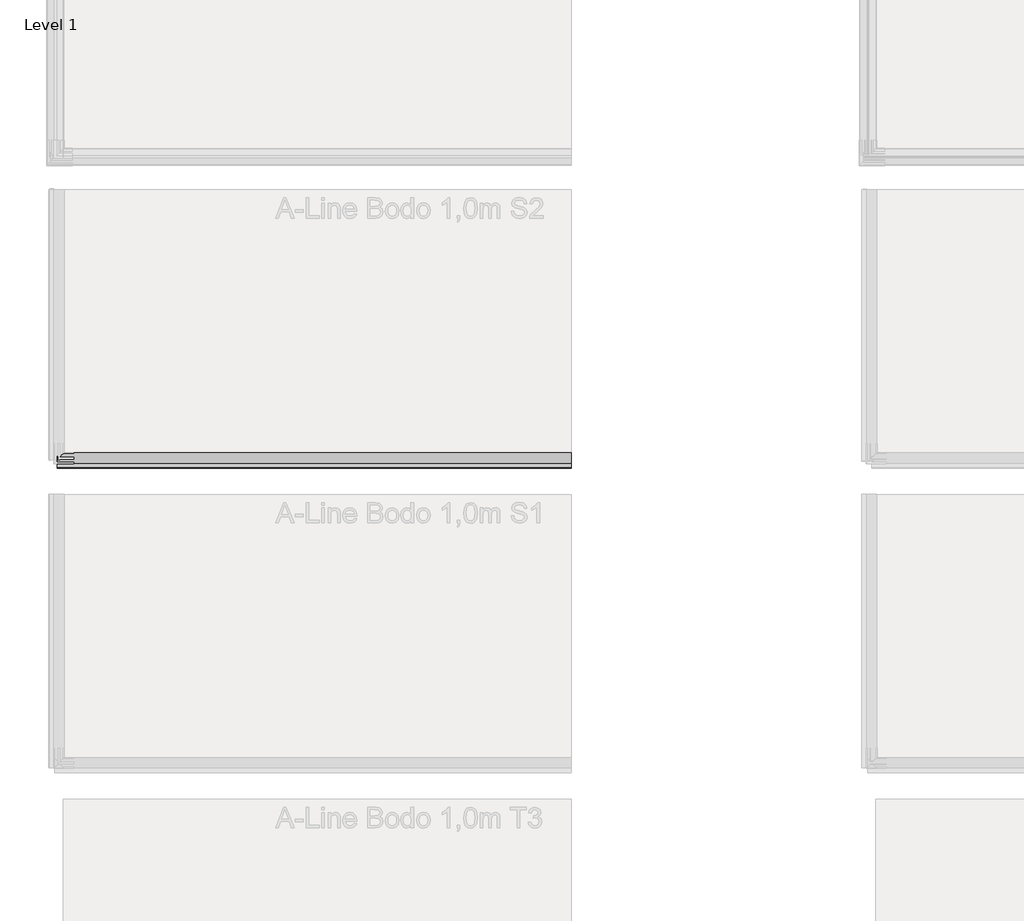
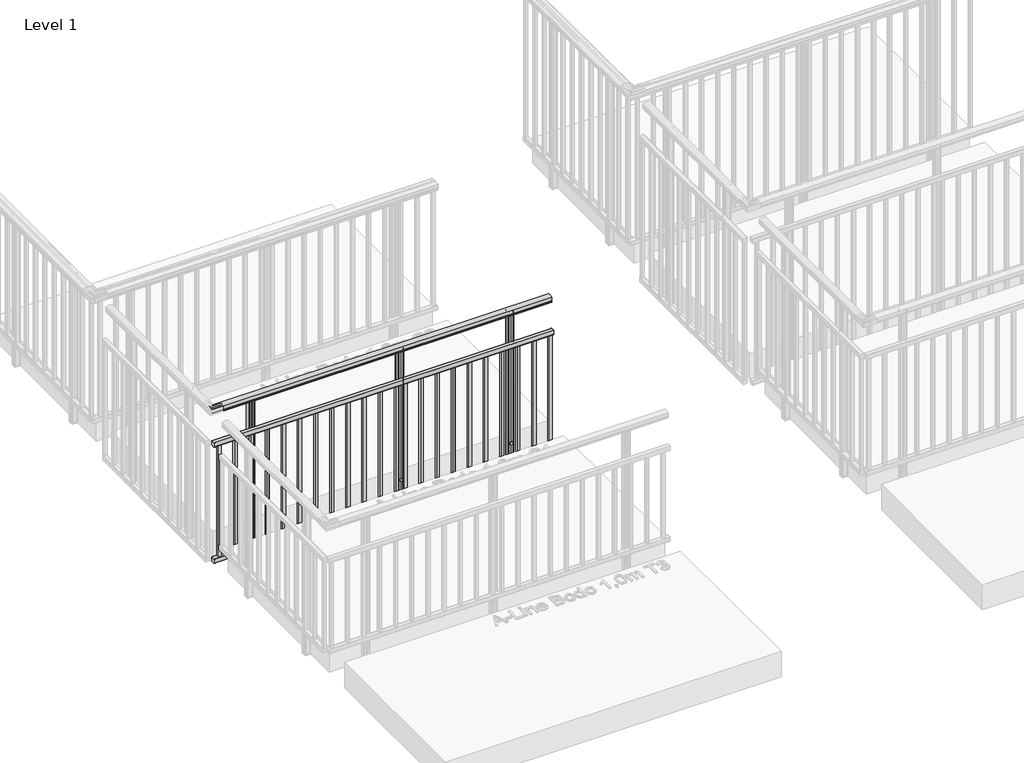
# One storey, part 4 of 66: 1 railing.
"""IFC4 building model written with IfcOpenShell, lengths in millimetres."""

from ifc_helpers import new_model, si_unit, point, frame, frame_2d, origin, place, context, project, spatial, polyline, circle_curve, trimmed, segment, composite_curve, outline, extrude, element, save

model = new_model("IFC4")

# Units and contexts
model_context = context("Model", 3, world=origin())
ifc_project = project(units=[si_unit("LENGTHUNIT", "METRE", prefix="MILLI")], contexts=[model_context])

# Site, building, storey
site = spatial("IfcSite", under=ifc_project)
building = spatial("IfcBuilding", under=site)
storey = spatial("IfcBuildingStorey", under=building, Name="Level 1", Elevation=0.0)

# Railing
placement = place(None, origin())
element("IfcRailing", 1, ObjectType="A-Line Bodo 1,0m S2", at=placement, inside=storey, context=model_context, shape_type="SweptSolid", body=[
    extrude(outline(composite_curve([segment(polyline([(-16065.1717719, 994.1390059), (-16065.1717719, 967.1990555), (-16065.7865549, 966.5842725), (-16065.1717719, 965.9694895), (-16065.1717719, 957.2498847), (-16066.9315805, 957.2498847), (-16066.9315805, 980.4998829), (-16113.9266266, 980.4998829), (-16113.9266266, 957.2498847), (-16115.7315795, 957.2498847), (-16115.7315795, 965.8194895), (-16115.1094985, 966.4415706), (-16115.6914302, 967.0235023), (-16115.6914302, 994.1342258)]), True, "CONTINUOUS"), segment(trimmed(circle_curve(frame_2d((-16090.4267322, 942.6785502)), 57.3235687), [point((-16115.6914302, 994.1342258))], [point((-16065.1717719, 994.1390059))], False, "CARTESIAN"), True, "CONTINUOUS")], self_intersect=False)), frame((4474.0547322, 0.0, 0.0), z_axis=(1.0, 0.0, 0.0), x_axis=(0.0, 1.0, 0.0)), (0.0, 0.0, 1.0), 2530.0),
    extrude(outline(composite_curve([segment(trimmed(circle_curve(frame_2d((-16138.2613559, 749.0)), 1.0), [point((-16139.2613559, 749.0))], [point((-16138.2613559, 750.0))], False, "CARTESIAN"), True, "CONTINUOUS"), segment(polyline([(-16138.2613559, 750.0), (-16111.1613559, 750.0)]), True, "CONTINUOUS"), segment(trimmed(circle_curve(frame_2d((-16111.1613559, 749.0)), 1.0), [point((-16111.1613559, 750.0))], [point((-16110.1613559, 749.0))], False, "CARTESIAN"), True, "CONTINUOUS"), segment(polyline([(-16110.1613559, 749.0), (-16110.1613559, 716.8)]), True, "CONTINUOUS"), segment(trimmed(circle_curve(frame_2d((-16111.1613559, 716.8)), 1.0), [point((-16110.1613559, 716.8))], [point((-16111.1613559, 715.8))], False, "CARTESIAN"), True, "CONTINUOUS"), segment(polyline([(-16111.1613559, 715.8), (-16138.2613559, 715.8)]), True, "CONTINUOUS"), segment(trimmed(circle_curve(frame_2d((-16138.2613559, 716.8)), 1.0), [point((-16138.2613559, 715.8))], [point((-16139.2613559, 716.8))], False, "CARTESIAN"), True, "CONTINUOUS"), segment(polyline([(-16139.2613559, 716.8), (-16139.2613559, 749.0)]), True, "CONTINUOUS")], self_intersect=False)), frame((4474.0547322, 0.0, 0.0), z_axis=(1.0, 0.0, 0.0), x_axis=(0.0, 1.0, 0.0)), (0.0, 0.0, 1.0), 2530.0),
    extrude(outline(composite_curve([segment(polyline([(-16138.2613559, -165.8), (-16111.1613559, -165.8)]), True, "CONTINUOUS"), segment(trimmed(circle_curve(frame_2d((-16111.1613559, -166.8)), 1.0), [point((-16111.1613559, -165.8))], [point((-16110.1613559, -166.8))], False, "CARTESIAN"), True, "CONTINUOUS"), segment(polyline([(-16110.1613559, -166.8), (-16110.1613559, -199.0)]), True, "CONTINUOUS"), segment(trimmed(circle_curve(frame_2d((-16111.1613559, -199.0)), 1.0), [point((-16110.1613559, -199.0))], [point((-16111.1613559, -200.0))], False, "CARTESIAN"), True, "CONTINUOUS"), segment(polyline([(-16111.1613559, -200.0), (-16138.2613559, -200.0)]), True, "CONTINUOUS"), segment(trimmed(circle_curve(frame_2d((-16138.2613559, -199.0)), 1.0), [point((-16138.2613559, -200.0))], [point((-16139.2613559, -199.0))], False, "CARTESIAN"), True, "CONTINUOUS"), segment(polyline([(-16139.2613559, -199.0), (-16139.2613559, -166.8)]), True, "CONTINUOUS"), segment(trimmed(circle_curve(frame_2d((-16138.2613559, -166.8)), 1.0), [point((-16139.2613559, -166.8))], [point((-16138.2613559, -165.8))], False, "CARTESIAN"), True, "CONTINUOUS")], self_intersect=False)), frame((4474.0547322, 0.0, 0.0), z_axis=(1.0, 0.0, 0.0), x_axis=(0.0, 1.0, 0.0)), (0.0, 0.0, 1.0), 2530.0),
    extrude(outline(polyline([(6974.0547322, -16134.7113559), (6974.0547322, -16114.7113559), (6994.0547322, -16114.7113559), (6994.0547322, -16134.7113559), (6974.0547322, -16134.7113559)]), holes=[polyline([(6976.0547322, -16132.7113559), (6992.0547322, -16132.7113559), (6992.0547322, -16116.7113559), (6976.0547322, -16116.7113559), (6976.0547322, -16132.7113559)])]), frame((0.0, 0.0, -166.0), z_axis=(0.0, 0.0, 1.0), x_axis=(1.0, 0.0, 0.0)), (0.0, 0.0, 1.0), 882.0),
    extrude(outline(polyline([(6854.0547322, -16134.7113559), (6854.0547322, -16114.7113559), (6874.0547322, -16114.7113559), (6874.0547322, -16134.7113559), (6854.0547322, -16134.7113559)]), holes=[polyline([(6856.0547322, -16132.7113559), (6872.0547322, -16132.7113559), (6872.0547322, -16116.7113559), (6856.0547322, -16116.7113559), (6856.0547322, -16132.7113559)])]), frame((0.0, 0.0, -166.0), z_axis=(0.0, 0.0, 1.0), x_axis=(1.0, 0.0, 0.0)), (0.0, 0.0, 1.0), 882.0),
    extrude(outline(polyline([(6734.0547322, -16134.7113559), (6734.0547322, -16114.7113559), (6754.0547322, -16114.7113559), (6754.0547322, -16134.7113559), (6734.0547322, -16134.7113559)]), holes=[polyline([(6736.0547322, -16132.7113559), (6752.0547322, -16132.7113559), (6752.0547322, -16116.7113559), (6736.0547322, -16116.7113559), (6736.0547322, -16132.7113559)])]), frame((0.0, 0.0, -166.0), z_axis=(0.0, 0.0, 1.0), x_axis=(1.0, 0.0, 0.0)), (0.0, 0.0, 1.0), 882.0),
    extrude(outline(polyline([(6614.0547322, -16134.7113559), (6614.0547322, -16114.7113559), (6634.0547322, -16114.7113559), (6634.0547322, -16134.7113559), (6614.0547322, -16134.7113559)]), holes=[polyline([(6616.0547322, -16132.7113559), (6632.0547322, -16132.7113559), (6632.0547322, -16116.7113559), (6616.0547322, -16116.7113559), (6616.0547322, -16132.7113559)])]), frame((0.0, 0.0, -166.0), z_axis=(0.0, 0.0, 1.0), x_axis=(1.0, 0.0, 0.0)), (0.0, 0.0, 1.0), 882.0),
    extrude(outline(polyline([(6494.0547322, -16134.7113559), (6494.0547322, -16114.7113559), (6514.0547322, -16114.7113559), (6514.0547322, -16134.7113559), (6494.0547322, -16134.7113559)]), holes=[polyline([(6496.0547322, -16132.7113559), (6512.0547322, -16132.7113559), (6512.0547322, -16116.7113559), (6496.0547322, -16116.7113559), (6496.0547322, -16132.7113559)])]), frame((0.0, 0.0, -166.0), z_axis=(0.0, 0.0, 1.0), x_axis=(1.0, 0.0, 0.0)), (0.0, 0.0, 1.0), 882.0),
    extrude(outline(polyline([(6374.0547322, -16134.7113559), (6374.0547322, -16114.7113559), (6394.0547322, -16114.7113559), (6394.0547322, -16134.7113559), (6374.0547322, -16134.7113559)]), holes=[polyline([(6376.0547322, -16132.7113559), (6392.0547322, -16132.7113559), (6392.0547322, -16116.7113559), (6376.0547322, -16116.7113559), (6376.0547322, -16132.7113559)])]), frame((0.0, 0.0, -166.0), z_axis=(0.0, 0.0, 1.0), x_axis=(1.0, 0.0, 0.0)), (0.0, 0.0, 1.0), 882.0),
    extrude(outline(polyline([(6254.0547322, -16134.7113559), (6254.0547322, -16114.7113559), (6274.0547322, -16114.7113559), (6274.0547322, -16134.7113559), (6254.0547322, -16134.7113559)]), holes=[polyline([(6256.0547322, -16132.7113559), (6272.0547322, -16132.7113559), (6272.0547322, -16116.7113559), (6256.0547322, -16116.7113559), (6256.0547322, -16132.7113559)])]), frame((0.0, 0.0, -166.0), z_axis=(0.0, 0.0, 1.0), x_axis=(1.0, 0.0, 0.0)), (0.0, 0.0, 1.0), 882.0),
    extrude(outline(polyline([(6134.0547322, -16134.7113559), (6134.0547322, -16114.7113559), (6154.0547322, -16114.7113559), (6154.0547322, -16134.7113559), (6134.0547322, -16134.7113559)]), holes=[polyline([(6136.0547322, -16132.7113559), (6152.0547322, -16132.7113559), (6152.0547322, -16116.7113559), (6136.0547322, -16116.7113559), (6136.0547322, -16132.7113559)])]), frame((0.0, 0.0, -166.0), z_axis=(0.0, 0.0, 1.0), x_axis=(1.0, 0.0, 0.0)), (0.0, 0.0, 1.0), 882.0),
    extrude(outline(polyline([(6014.0547322, -16134.7113559), (6014.0547322, -16114.7113559), (6034.0547322, -16114.7113559), (6034.0547322, -16134.7113559), (6014.0547322, -16134.7113559)]), holes=[polyline([(6016.0547322, -16132.7113559), (6032.0547322, -16132.7113559), (6032.0547322, -16116.7113559), (6016.0547322, -16116.7113559), (6016.0547322, -16132.7113559)])]), frame((0.0, 0.0, -166.0), z_axis=(0.0, 0.0, 1.0), x_axis=(1.0, 0.0, 0.0)), (0.0, 0.0, 1.0), 882.0),
    extrude(outline(polyline([(5894.0547322, -16134.7113559), (5894.0547322, -16114.7113559), (5914.0547322, -16114.7113559), (5914.0547322, -16134.7113559), (5894.0547322, -16134.7113559)]), holes=[polyline([(5896.0547322, -16132.7113559), (5912.0547322, -16132.7113559), (5912.0547322, -16116.7113559), (5896.0547322, -16116.7113559), (5896.0547322, -16132.7113559)])]), frame((0.0, 0.0, -166.0), z_axis=(0.0, 0.0, 1.0), x_axis=(1.0, 0.0, 0.0)), (0.0, 0.0, 1.0), 882.0),
    extrude(outline(polyline([(5829.0547322, -16134.7113559), (5829.0547322, -16114.7113559), (5849.0547322, -16114.7113559), (5849.0547322, -16134.7113559), (5829.0547322, -16134.7113559)]), holes=[polyline([(5831.0547322, -16132.7113559), (5847.0547322, -16132.7113559), (5847.0547322, -16116.7113559), (5831.0547322, -16116.7113559), (5831.0547322, -16132.7113559)])]), frame((0.0, 0.0, -166.0), z_axis=(0.0, 0.0, 1.0), x_axis=(1.0, 0.0, 0.0)), (0.0, 0.0, 1.0), 882.0),
    extrude(outline(polyline([(5709.0547322, -16134.7113559), (5709.0547322, -16114.7113559), (5729.0547322, -16114.7113559), (5729.0547322, -16134.7113559), (5709.0547322, -16134.7113559)]), holes=[polyline([(5711.0547322, -16132.7113559), (5727.0547322, -16132.7113559), (5727.0547322, -16116.7113559), (5711.0547322, -16116.7113559), (5711.0547322, -16132.7113559)])]), frame((0.0, 0.0, -166.0), z_axis=(0.0, 0.0, 1.0), x_axis=(1.0, 0.0, 0.0)), (0.0, 0.0, 1.0), 882.0),
    extrude(outline(polyline([(5589.0547322, -16134.7113559), (5589.0547322, -16114.7113559), (5609.0547322, -16114.7113559), (5609.0547322, -16134.7113559), (5589.0547322, -16134.7113559)]), holes=[polyline([(5591.0547322, -16132.7113559), (5607.0547322, -16132.7113559), (5607.0547322, -16116.7113559), (5591.0547322, -16116.7113559), (5591.0547322, -16132.7113559)])]), frame((0.0, 0.0, -166.0), z_axis=(0.0, 0.0, 1.0), x_axis=(1.0, 0.0, 0.0)), (0.0, 0.0, 1.0), 882.0),
    extrude(outline(polyline([(5469.0547322, -16134.7113559), (5469.0547322, -16114.7113559), (5489.0547322, -16114.7113559), (5489.0547322, -16134.7113559), (5469.0547322, -16134.7113559)]), holes=[polyline([(5471.0547322, -16132.7113559), (5487.0547322, -16132.7113559), (5487.0547322, -16116.7113559), (5471.0547322, -16116.7113559), (5471.0547322, -16132.7113559)])]), frame((0.0, 0.0, -166.0), z_axis=(0.0, 0.0, 1.0), x_axis=(1.0, 0.0, 0.0)), (0.0, 0.0, 1.0), 882.0),
    extrude(outline(polyline([(5349.0547322, -16134.7113559), (5349.0547322, -16114.7113559), (5369.0547322, -16114.7113559), (5369.0547322, -16134.7113559), (5349.0547322, -16134.7113559)]), holes=[polyline([(5351.0547322, -16132.7113559), (5367.0547322, -16132.7113559), (5367.0547322, -16116.7113559), (5351.0547322, -16116.7113559), (5351.0547322, -16132.7113559)])]), frame((0.0, 0.0, -166.0), z_axis=(0.0, 0.0, 1.0), x_axis=(1.0, 0.0, 0.0)), (0.0, 0.0, 1.0), 882.0),
    extrude(outline(polyline([(5229.0547322, -16134.7113559), (5229.0547322, -16114.7113559), (5249.0547322, -16114.7113559), (5249.0547322, -16134.7113559), (5229.0547322, -16134.7113559)]), holes=[polyline([(5231.0547322, -16132.7113559), (5247.0547322, -16132.7113559), (5247.0547322, -16116.7113559), (5231.0547322, -16116.7113559), (5231.0547322, -16132.7113559)])]), frame((0.0, 0.0, -166.0), z_axis=(0.0, 0.0, 1.0), x_axis=(1.0, 0.0, 0.0)), (0.0, 0.0, 1.0), 882.0),
    extrude(outline(polyline([(5109.0547322, -16134.7113559), (5109.0547322, -16114.7113559), (5129.0547322, -16114.7113559), (5129.0547322, -16134.7113559), (5109.0547322, -16134.7113559)]), holes=[polyline([(5111.0547322, -16132.7113559), (5127.0547322, -16132.7113559), (5127.0547322, -16116.7113559), (5111.0547322, -16116.7113559), (5111.0547322, -16132.7113559)])]), frame((0.0, 0.0, -166.0), z_axis=(0.0, 0.0, 1.0), x_axis=(1.0, 0.0, 0.0)), (0.0, 0.0, 1.0), 882.0),
    extrude(outline(polyline([(4989.0547322, -16134.7113559), (4989.0547322, -16114.7113559), (5009.0547322, -16114.7113559), (5009.0547322, -16134.7113559), (4989.0547322, -16134.7113559)]), holes=[polyline([(4991.0547322, -16132.7113559), (5007.0547322, -16132.7113559), (5007.0547322, -16116.7113559), (4991.0547322, -16116.7113559), (4991.0547322, -16132.7113559)])]), frame((0.0, 0.0, -166.0), z_axis=(0.0, 0.0, 1.0), x_axis=(1.0, 0.0, 0.0)), (0.0, 0.0, 1.0), 882.0),
    extrude(outline(polyline([(4869.0547322, -16134.7113559), (4869.0547322, -16114.7113559), (4889.0547322, -16114.7113559), (4889.0547322, -16134.7113559), (4869.0547322, -16134.7113559)]), holes=[polyline([(4871.0547322, -16132.7113559), (4887.0547322, -16132.7113559), (4887.0547322, -16116.7113559), (4871.0547322, -16116.7113559), (4871.0547322, -16132.7113559)])]), frame((0.0, 0.0, -166.0), z_axis=(0.0, 0.0, 1.0), x_axis=(1.0, 0.0, 0.0)), (0.0, 0.0, 1.0), 882.0),
    extrude(outline(polyline([(4749.0547322, -16134.7113559), (4749.0547322, -16114.7113559), (4769.0547322, -16114.7113559), (4769.0547322, -16134.7113559), (4749.0547322, -16134.7113559)]), holes=[polyline([(4751.0547322, -16132.7113559), (4767.0547322, -16132.7113559), (4767.0547322, -16116.7113559), (4751.0547322, -16116.7113559), (4751.0547322, -16132.7113559)])]), frame((0.0, 0.0, -166.0), z_axis=(0.0, 0.0, 1.0), x_axis=(1.0, 0.0, 0.0)), (0.0, 0.0, 1.0), 882.0),
    extrude(outline(polyline([(4629.0547322, -16134.7113559), (4629.0547322, -16114.7113559), (4649.0547322, -16114.7113559), (4649.0547322, -16134.7113559), (4629.0547322, -16134.7113559)]), holes=[polyline([(4631.0547322, -16132.7113559), (4647.0547322, -16132.7113559), (4647.0547322, -16116.7113559), (4631.0547322, -16116.7113559), (4631.0547322, -16132.7113559)])]), frame((0.0, 0.0, -166.0), z_axis=(0.0, 0.0, 1.0), x_axis=(1.0, 0.0, 0.0)), (0.0, 0.0, 1.0), 882.0),
    extrude(outline(polyline([(4509.0547322, -16134.7113559), (4509.0547322, -16114.7113559), (4529.0547322, -16114.7113559), (4529.0547322, -16134.7113559), (4509.0547322, -16134.7113559)]), holes=[polyline([(4511.0547322, -16132.7113559), (4527.0547322, -16132.7113559), (4527.0547322, -16116.7113559), (4511.0547322, -16116.7113559), (4511.0547322, -16132.7113559)])]), frame((0.0, 0.0, -166.0), z_axis=(0.0, 0.0, 1.0), x_axis=(1.0, 0.0, 0.0)), (0.0, 0.0, 1.0), 882.0),
    extrude(outline(composite_curve([segment(polyline([(5884.8575193, -16069.7113559), (5901.8808192, -16069.7113559)]), True, "CONTINUOUS"), segment(trimmed(circle_curve(frame_2d((5901.8808192, -16071.885269)), 2.173913), [point((5901.8808192, -16069.7113559))], [point((5904.0547322, -16071.885269))], False, "CARTESIAN"), True, "CONTINUOUS"), segment(polyline([(5904.0547322, -16071.885269), (5904.0547322, -16107.5374429)]), True, "CONTINUOUS"), segment(trimmed(circle_curve(frame_2d((5901.8808192, -16107.5374429)), 2.173913), [point((5904.0547322, -16107.5374429))], [point((5901.8808192, -16109.7113559))], False, "CARTESIAN"), True, "CONTINUOUS"), segment(polyline([(5901.8808192, -16109.7113559), (5884.8225694, -16109.676406), (5884.0547322, -16108.9085689), (5883.2868951, -16109.676406), (5866.2286453, -16109.7113559)]), True, "CONTINUOUS"), segment(trimmed(circle_curve(frame_2d((5866.2286453, -16107.5374429)), 2.173913), [point((5866.2286453, -16109.7113559))], [point((5864.0547322, -16107.5374429))], False, "CARTESIAN"), True, "CONTINUOUS"), segment(polyline([(5864.0547322, -16107.5374429), (5864.0547322, -16071.885269)]), True, "CONTINUOUS"), segment(trimmed(circle_curve(frame_2d((5866.2286453, -16071.885269)), 2.173913), [point((5864.0547322, -16071.885269))], [point((5866.2286452, -16069.7113559))], False, "CARTESIAN"), True, "CONTINUOUS"), segment(polyline([(5866.2286452, -16069.7113559), (5883.2868951, -16069.7463058), (5884.0547322, -16070.5141429), (5884.8575193, -16069.7113559)]), True, "CONTINUOUS")], self_intersect=False)), frame((0.0, 0.0, -200.0), z_axis=(0.0, 0.0, 1.0), x_axis=(1.0, 0.0, 0.0)), (0.0, 0.0, 1.0), 10.0),
    extrude(outline(composite_curve([segment(trimmed(circle_curve(frame_2d((5866.2286453, -16071.885269)), 2.173913), [point((5864.0547322, -16071.885269))], [point((5866.2286453, -16069.7113559))], False, "CARTESIAN"), True, "CONTINUOUS"), segment(polyline([(5866.2286453, -16069.7113559), (5883.2868951, -16069.7463058), (5884.185167, -16070.1143102), (5884.9530042, -16069.7113559), (5901.8808192, -16069.7113559)]), True, "CONTINUOUS"), segment(trimmed(circle_curve(frame_2d((5901.8808192, -16071.885269)), 2.173913), [point((5901.8808192, -16069.7113559))], [point((5904.0547322, -16071.885269))], False, "CARTESIAN"), True, "CONTINUOUS"), segment(polyline([(5904.0547322, -16071.885269), (5904.0547322, -16107.5374429)]), True, "CONTINUOUS"), segment(trimmed(circle_curve(frame_2d((5901.8808192, -16107.5374429)), 2.173913), [point((5904.0547322, -16107.5374429))], [point((5901.8808192, -16109.7113559))], False, "CARTESIAN"), True, "CONTINUOUS"), segment(polyline([(5901.8808192, -16109.7113559), (5884.8225694, -16109.676406), (5884.0547322, -16108.9085689), (5883.2868951, -16109.676406), (5866.2286453, -16109.7113559)]), True, "CONTINUOUS"), segment(trimmed(circle_curve(frame_2d((5866.2286453, -16107.5374429)), 2.173913), [point((5866.2286453, -16109.7113559))], [point((5864.0547322, -16107.5374429))], False, "CARTESIAN"), True, "CONTINUOUS"), segment(polyline([(5864.0547322, -16107.5374429), (5864.0547322, -16071.885269)]), True, "CONTINUOUS")], self_intersect=False), holes=[composite_curve([segment(polyline([(5867.5329931, -16074.059182), (5867.5329931, -16105.3635298)]), True, "CONTINUOUS"), segment(trimmed(circle_curve(frame_2d((5868.4025583, -16105.3635298)), 0.8695652), [point((5867.5329931, -16105.3635298))], [point((5868.4025583, -16106.233095))], True, "CARTESIAN"), True, "CONTINUOUS"), segment(polyline([(5868.4025583, -16106.233095), (5899.7069062, -16106.233095)]), True, "CONTINUOUS"), segment(trimmed(circle_curve(frame_2d((5899.7069062, -16105.3635298)), 0.8695652), [point((5899.7069062, -16106.233095))], [point((5900.5764714, -16105.3635298))], True, "CARTESIAN"), True, "CONTINUOUS"), segment(polyline([(5900.5764714, -16105.3635298), (5900.5764714, -16074.059182)]), True, "CONTINUOUS"), segment(trimmed(circle_curve(frame_2d((5899.7069062, -16074.059182)), 0.8695652), [point((5900.5764714, -16074.059182))], [point((5899.7069062, -16073.1896168))], True, "CARTESIAN"), True, "CONTINUOUS"), segment(polyline([(5899.7069062, -16073.1896168), (5868.4025583, -16073.1896168)]), True, "CONTINUOUS"), segment(trimmed(circle_curve(frame_2d((5868.4025583, -16074.059182)), 0.8695652), [point((5868.4025583, -16073.1896168))], [point((5867.5329931, -16074.059182))], True, "CARTESIAN"), True, "CONTINUOUS")], self_intersect=False)]), frame((0.0, 0.0, -190.0), z_axis=(0.0, 0.0, 1.0), x_axis=(1.0, 0.0, 0.0)), (0.0, 0.0, 1.0), 1170.0),
    extrude(outline(composite_curve([segment(trimmed(circle_curve(frame_2d((0.0, 12.0)), 12.0), [point((0.0, 23.9999999))], [point((0.0, 0.0))], False, "CARTESIAN"), True, "CONTINUOUS"), segment(trimmed(circle_curve(frame_2d((0.0, 12.0)), 12.0), [point((0.0, 0.0))], [point((0.0, 23.9999999))], False, "CARTESIAN"), True, "CONTINUOUS")], self_intersect=False)), frame((5872.0444554, -16112.7751851, -151.0), z_axis=(0.00040291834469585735, 0.9999999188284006, 0.0), x_axis=(0.0, 0.0, 1.0)), (0.0, 0.0, 1.0), 3.0757477),
    extrude(outline(composite_curve([segment(trimmed(circle_curve(frame_2d((0.0, 12.0)), 12.0), [point((0.0, 23.9999999))], [point((0.0, 0.0))], False, "CARTESIAN"), True, "CONTINUOUS"), segment(trimmed(circle_curve(frame_2d((0.0, 12.0)), 12.0), [point((0.0, 0.0))], [point((0.0, 23.9999999))], False, "CARTESIAN"), True, "CONTINUOUS")], self_intersect=False)), frame((5872.0444554, -16112.7751851, -50.0), z_axis=(0.00040291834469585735, 0.9999999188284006, 0.0), x_axis=(0.0, 0.0, 1.0)), (0.0, 0.0, 1.0), 3.0757477),
    extrude(outline(composite_curve([segment(polyline([(6704.8575193, -16069.7113559), (6721.8808192, -16069.7113559)]), True, "CONTINUOUS"), segment(trimmed(circle_curve(frame_2d((6721.8808192, -16071.885269)), 2.173913), [point((6721.8808192, -16069.7113559))], [point((6724.0547322, -16071.885269))], False, "CARTESIAN"), True, "CONTINUOUS"), segment(polyline([(6724.0547322, -16071.885269), (6724.0547322, -16107.5374429)]), True, "CONTINUOUS"), segment(trimmed(circle_curve(frame_2d((6721.8808192, -16107.5374429)), 2.173913), [point((6724.0547322, -16107.5374429))], [point((6721.8808192, -16109.7113559))], False, "CARTESIAN"), True, "CONTINUOUS"), segment(polyline([(6721.8808192, -16109.7113559), (6704.8225694, -16109.676406), (6704.0547322, -16108.9085689), (6703.2868951, -16109.676406), (6686.2286453, -16109.7113559)]), True, "CONTINUOUS"), segment(trimmed(circle_curve(frame_2d((6686.2286453, -16107.5374429)), 2.173913), [point((6686.2286453, -16109.7113559))], [point((6684.0547322, -16107.5374429))], False, "CARTESIAN"), True, "CONTINUOUS"), segment(polyline([(6684.0547322, -16107.5374429), (6684.0547322, -16071.885269)]), True, "CONTINUOUS"), segment(trimmed(circle_curve(frame_2d((6686.2286453, -16071.885269)), 2.173913), [point((6684.0547322, -16071.885269))], [point((6686.2286452, -16069.7113559))], False, "CARTESIAN"), True, "CONTINUOUS"), segment(polyline([(6686.2286452, -16069.7113559), (6703.2868951, -16069.7463058), (6704.0547322, -16070.5141429), (6704.8575193, -16069.7113559)]), True, "CONTINUOUS")], self_intersect=False)), frame((0.0, 0.0, -200.0), z_axis=(0.0, 0.0, 1.0), x_axis=(1.0, 0.0, 0.0)), (0.0, 0.0, 1.0), 10.0),
    extrude(outline(composite_curve([segment(trimmed(circle_curve(frame_2d((6686.2286453, -16071.885269)), 2.173913), [point((6684.0547322, -16071.885269))], [point((6686.2286453, -16069.7113559))], False, "CARTESIAN"), True, "CONTINUOUS"), segment(polyline([(6686.2286453, -16069.7113559), (6703.2868951, -16069.7463058), (6704.185167, -16070.1143102), (6704.9530042, -16069.7113559), (6721.8808192, -16069.7113559)]), True, "CONTINUOUS"), segment(trimmed(circle_curve(frame_2d((6721.8808192, -16071.885269)), 2.173913), [point((6721.8808192, -16069.7113559))], [point((6724.0547322, -16071.885269))], False, "CARTESIAN"), True, "CONTINUOUS"), segment(polyline([(6724.0547322, -16071.885269), (6724.0547322, -16107.5374429)]), True, "CONTINUOUS"), segment(trimmed(circle_curve(frame_2d((6721.8808192, -16107.5374429)), 2.173913), [point((6724.0547322, -16107.5374429))], [point((6721.8808192, -16109.7113559))], False, "CARTESIAN"), True, "CONTINUOUS"), segment(polyline([(6721.8808192, -16109.7113559), (6704.8225694, -16109.676406), (6704.0547322, -16108.9085689), (6703.2868951, -16109.676406), (6686.2286453, -16109.7113559)]), True, "CONTINUOUS"), segment(trimmed(circle_curve(frame_2d((6686.2286453, -16107.5374429)), 2.173913), [point((6686.2286453, -16109.7113559))], [point((6684.0547322, -16107.5374429))], False, "CARTESIAN"), True, "CONTINUOUS"), segment(polyline([(6684.0547322, -16107.5374429), (6684.0547322, -16071.885269)]), True, "CONTINUOUS")], self_intersect=False), holes=[composite_curve([segment(polyline([(6687.5329931, -16074.059182), (6687.5329931, -16105.3635298)]), True, "CONTINUOUS"), segment(trimmed(circle_curve(frame_2d((6688.4025583, -16105.3635298)), 0.8695652), [point((6687.5329931, -16105.3635298))], [point((6688.4025583, -16106.233095))], True, "CARTESIAN"), True, "CONTINUOUS"), segment(polyline([(6688.4025583, -16106.233095), (6719.7069062, -16106.233095)]), True, "CONTINUOUS"), segment(trimmed(circle_curve(frame_2d((6719.7069062, -16105.3635298)), 0.8695652), [point((6719.7069062, -16106.233095))], [point((6720.5764714, -16105.3635298))], True, "CARTESIAN"), True, "CONTINUOUS"), segment(polyline([(6720.5764714, -16105.3635298), (6720.5764714, -16074.059182)]), True, "CONTINUOUS"), segment(trimmed(circle_curve(frame_2d((6719.7069062, -16074.059182)), 0.8695652), [point((6720.5764714, -16074.059182))], [point((6719.7069062, -16073.1896168))], True, "CARTESIAN"), True, "CONTINUOUS"), segment(polyline([(6719.7069062, -16073.1896168), (6688.4025583, -16073.1896168)]), True, "CONTINUOUS"), segment(trimmed(circle_curve(frame_2d((6688.4025583, -16074.059182)), 0.8695652), [point((6688.4025583, -16073.1896168))], [point((6687.5329931, -16074.059182))], True, "CARTESIAN"), True, "CONTINUOUS")], self_intersect=False)]), frame((0.0, 0.0, -190.0), z_axis=(0.0, 0.0, 1.0), x_axis=(1.0, 0.0, 0.0)), (0.0, 0.0, 1.0), 1171.0),
    extrude(outline(composite_curve([segment(trimmed(circle_curve(frame_2d((0.0, 12.0)), 12.0), [point((0.0, 23.9999999))], [point((0.0, 0.0))], False, "CARTESIAN"), True, "CONTINUOUS"), segment(trimmed(circle_curve(frame_2d((0.0, 12.0)), 12.0), [point((0.0, 0.0))], [point((0.0, 23.9999999))], False, "CARTESIAN"), True, "CONTINUOUS")], self_intersect=False)), frame((6692.0444554, -16112.7751851, -151.0), z_axis=(0.0004029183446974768, 0.9999999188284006, 0.0), x_axis=(0.0, 0.0, 1.0)), (0.0, 0.0, 1.0), 3.0757477),
    extrude(outline(composite_curve([segment(trimmed(circle_curve(frame_2d((0.0, 12.0)), 12.0), [point((0.0, 23.9999999))], [point((0.0, 0.0))], False, "CARTESIAN"), True, "CONTINUOUS"), segment(trimmed(circle_curve(frame_2d((0.0, 12.0)), 12.0), [point((0.0, 0.0))], [point((0.0, 23.9999999))], False, "CARTESIAN"), True, "CONTINUOUS")], self_intersect=False)), frame((6692.0444554, -16112.7751851, -50.0), z_axis=(0.0004029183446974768, 0.9999999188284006, 0.0), x_axis=(0.0, 0.0, 1.0)), (0.0, 0.0, 1.0), 3.0757477),
    extrude(outline(composite_curve([segment(polyline([(4774.8575193, -16069.7113559), (4791.8808192, -16069.7113559)]), True, "CONTINUOUS"), segment(trimmed(circle_curve(frame_2d((4791.8808192, -16071.885269)), 2.173913), [point((4791.8808192, -16069.7113559))], [point((4794.0547322, -16071.885269))], False, "CARTESIAN"), True, "CONTINUOUS"), segment(polyline([(4794.0547322, -16071.885269), (4794.0547322, -16107.5374429)]), True, "CONTINUOUS"), segment(trimmed(circle_curve(frame_2d((4791.8808192, -16107.5374429)), 2.173913), [point((4794.0547322, -16107.5374429))], [point((4791.8808192, -16109.7113559))], False, "CARTESIAN"), True, "CONTINUOUS"), segment(polyline([(4791.8808192, -16109.7113559), (4774.8225694, -16109.676406), (4774.0547322, -16108.9085689), (4773.2868951, -16109.676406), (4756.2286453, -16109.7113559)]), True, "CONTINUOUS"), segment(trimmed(circle_curve(frame_2d((4756.2286453, -16107.5374429)), 2.173913), [point((4756.2286453, -16109.7113559))], [point((4754.0547322, -16107.5374429))], False, "CARTESIAN"), True, "CONTINUOUS"), segment(polyline([(4754.0547322, -16107.5374429), (4754.0547322, -16071.885269)]), True, "CONTINUOUS"), segment(trimmed(circle_curve(frame_2d((4756.2286453, -16071.885269)), 2.173913), [point((4754.0547322, -16071.885269))], [point((4756.2286452, -16069.7113559))], False, "CARTESIAN"), True, "CONTINUOUS"), segment(polyline([(4756.2286452, -16069.7113559), (4773.2868951, -16069.7463058), (4774.0547322, -16070.5141429), (4774.8575193, -16069.7113559)]), True, "CONTINUOUS")], self_intersect=False)), frame((0.0, 0.0, -200.0), z_axis=(0.0, 0.0, 1.0), x_axis=(1.0, 0.0, 0.0)), (0.0, 0.0, 1.0), 10.0),
    extrude(outline(composite_curve([segment(trimmed(circle_curve(frame_2d((4756.2286453, -16071.885269)), 2.173913), [point((4754.0547322, -16071.885269))], [point((4756.2286453, -16069.7113559))], False, "CARTESIAN"), True, "CONTINUOUS"), segment(polyline([(4756.2286453, -16069.7113559), (4773.2868951, -16069.7463058), (4774.185167, -16070.1143102), (4774.9530042, -16069.7113559), (4791.8808192, -16069.7113559)]), True, "CONTINUOUS"), segment(trimmed(circle_curve(frame_2d((4791.8808192, -16071.885269)), 2.173913), [point((4791.8808192, -16069.7113559))], [point((4794.0547322, -16071.885269))], False, "CARTESIAN"), True, "CONTINUOUS"), segment(polyline([(4794.0547322, -16071.885269), (4794.0547322, -16107.5374429)]), True, "CONTINUOUS"), segment(trimmed(circle_curve(frame_2d((4791.8808192, -16107.5374429)), 2.173913), [point((4794.0547322, -16107.5374429))], [point((4791.8808192, -16109.7113559))], False, "CARTESIAN"), True, "CONTINUOUS"), segment(polyline([(4791.8808192, -16109.7113559), (4774.8225694, -16109.676406), (4774.0547322, -16108.9085689), (4773.2868951, -16109.676406), (4756.2286453, -16109.7113559)]), True, "CONTINUOUS"), segment(trimmed(circle_curve(frame_2d((4756.2286453, -16107.5374429)), 2.173913), [point((4756.2286453, -16109.7113559))], [point((4754.0547322, -16107.5374429))], False, "CARTESIAN"), True, "CONTINUOUS"), segment(polyline([(4754.0547322, -16107.5374429), (4754.0547322, -16071.885269)]), True, "CONTINUOUS")], self_intersect=False), holes=[composite_curve([segment(polyline([(4757.5329931, -16074.059182), (4757.5329931, -16105.3635298)]), True, "CONTINUOUS"), segment(trimmed(circle_curve(frame_2d((4758.4025583, -16105.3635298)), 0.8695652), [point((4757.5329931, -16105.3635298))], [point((4758.4025583, -16106.233095))], True, "CARTESIAN"), True, "CONTINUOUS"), segment(polyline([(4758.4025583, -16106.233095), (4789.7069062, -16106.233095)]), True, "CONTINUOUS"), segment(trimmed(circle_curve(frame_2d((4789.7069062, -16105.3635298)), 0.8695652), [point((4789.7069062, -16106.233095))], [point((4790.5764714, -16105.3635298))], True, "CARTESIAN"), True, "CONTINUOUS"), segment(polyline([(4790.5764714, -16105.3635298), (4790.5764714, -16074.059182)]), True, "CONTINUOUS"), segment(trimmed(circle_curve(frame_2d((4789.7069062, -16074.059182)), 0.8695652), [point((4790.5764714, -16074.059182))], [point((4789.7069062, -16073.1896168))], True, "CARTESIAN"), True, "CONTINUOUS"), segment(polyline([(4789.7069062, -16073.1896168), (4758.4025583, -16073.1896168)]), True, "CONTINUOUS"), segment(trimmed(circle_curve(frame_2d((4758.4025583, -16074.059182)), 0.8695652), [point((4758.4025583, -16073.1896168))], [point((4757.5329931, -16074.059182))], True, "CARTESIAN"), True, "CONTINUOUS")], self_intersect=False)]), frame((0.0, 0.0, -190.0), z_axis=(0.0, 0.0, 1.0), x_axis=(1.0, 0.0, 0.0)), (0.0, 0.0, 1.0), 1171.0),
    extrude(outline(composite_curve([segment(trimmed(circle_curve(frame_2d((0.0, 12.0)), 12.0), [point((0.0, 23.9999999))], [point((0.0, 0.0))], False, "CARTESIAN"), True, "CONTINUOUS"), segment(trimmed(circle_curve(frame_2d((0.0, 12.0)), 12.0), [point((0.0, 0.0))], [point((0.0, 23.9999999))], False, "CARTESIAN"), True, "CONTINUOUS")], self_intersect=False)), frame((4762.0444554, -16112.7751851, -151.0), z_axis=(0.00040291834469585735, 0.9999999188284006, 0.0), x_axis=(0.0, 0.0, 1.0)), (0.0, 0.0, 1.0), 3.0757477),
    extrude(outline(composite_curve([segment(trimmed(circle_curve(frame_2d((0.0, 12.0)), 12.0), [point((0.0, 23.9999999))], [point((0.0, 0.0))], False, "CARTESIAN"), True, "CONTINUOUS"), segment(trimmed(circle_curve(frame_2d((0.0, 12.0)), 12.0), [point((0.0, 0.0))], [point((0.0, 23.9999999))], False, "CARTESIAN"), True, "CONTINUOUS")], self_intersect=False)), frame((4762.0444554, -16112.7751851, -50.0), z_axis=(0.00040291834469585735, 0.9999999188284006, 0.0), x_axis=(0.0, 0.0, 1.0)), (0.0, 0.0, 1.0), 3.0757477),
])

save(model, "model.ifc")
